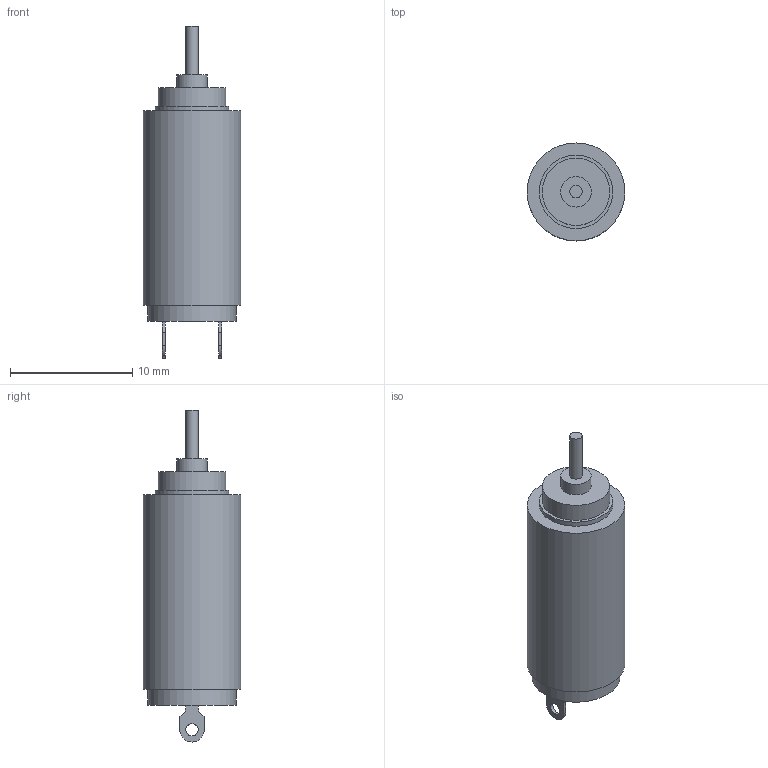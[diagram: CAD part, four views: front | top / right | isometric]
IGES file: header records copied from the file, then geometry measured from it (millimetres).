
Global section: file name: No Iges File Name specified; native system: Autodesk Inventor 2012; preprocessor: AutoDesk Inventor Iges Exporter R2012; author: mangiullo; date: 20130911.115724; units: millimetre
Bounding box: 8 x 8 x 27.15 mm (x, y, z)
Volume: 909.4 mm3; surface area: 604.9 mm2
Topology: 1 solids, 1 shells, 29 faces, 60 edges, 40 vertices
Faces by surface type: plane 15, cylinder 8, revolution 6
Full cylindrical faces by diameter (mm): 1 x1, 2.5 x1, 5.5 x1, 6 x1, 7.2 x1, 8 x1
